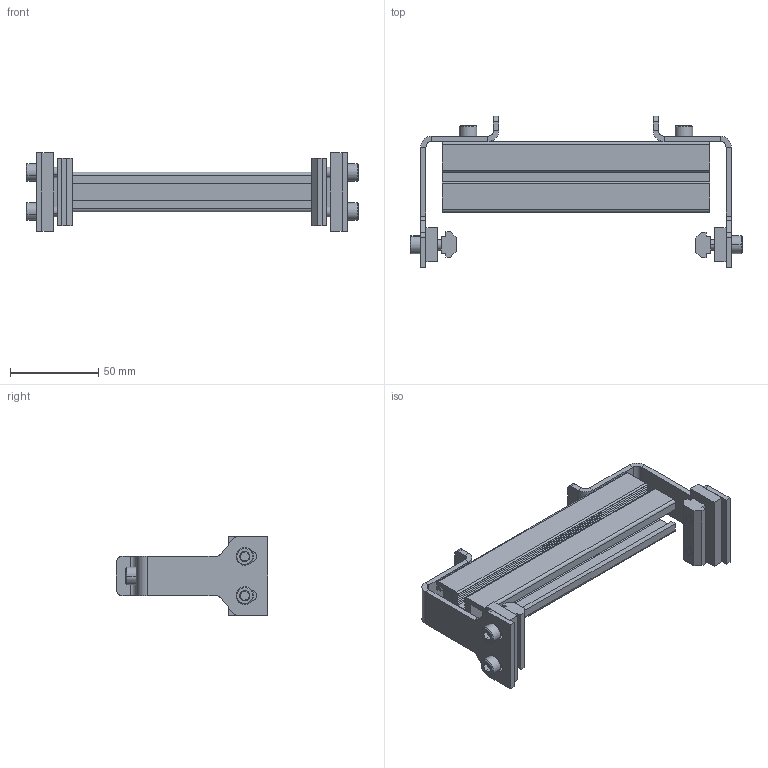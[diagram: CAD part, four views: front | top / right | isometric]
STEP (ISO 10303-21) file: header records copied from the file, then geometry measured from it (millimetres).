
FILE_DESCRIPTION((''),'2;1');
FILE_NAME('207133-06_ASM','2016-07-26T',('adam.dellomodarme'),(''),'PRO/ENGINEER BY PARAMETRIC TECHNOLOGY CORPORATION, 2012420','PRO/ENGINEER BY PARAMETRIC TECHNOLOGY CORPORATION, 2012420','');
FILE_SCHEMA(('CONFIG_CONTROL_DESIGN'));
Length unit declared in the file: inch
Products named in the file (9): 200626M; 9206XXM_920620M; 202444; 9206XXM_920614M; 207135-WW_207135-06; 639971M; 201937; ASM0001_ASM; 207133-06_ASM
Assembly tree (16 placements, depth 3):
  207133-06_ASM
    ASM0001_ASM
      200626M  x2
      9206XXM_920620M  x4
      202444  x2
      9206XXM_920614M  x2
      207135-WW_207135-06
      639971M  x2
      201937  x2
Bounding box: 188.17 x 85.8 x 44.45 mm (x, y, z)
Volume: 105731.4 mm3; surface area: 67981.8 mm2
Topology: 15 solids, 15 shells, 428 faces, 1050 edges, 664 vertices
Faces by surface type: plane 258, cylinder 104, cone 66
Entity records: 7557 total; most frequent: CARTESIAN_POINT 1392, DIRECTION 1272, ORIENTED_EDGE 1216, EDGE_CURVE 608, VECTOR 460, LINE 460, AXIS2_PLACEMENT_3D 406, VERTEX_POINT 392
